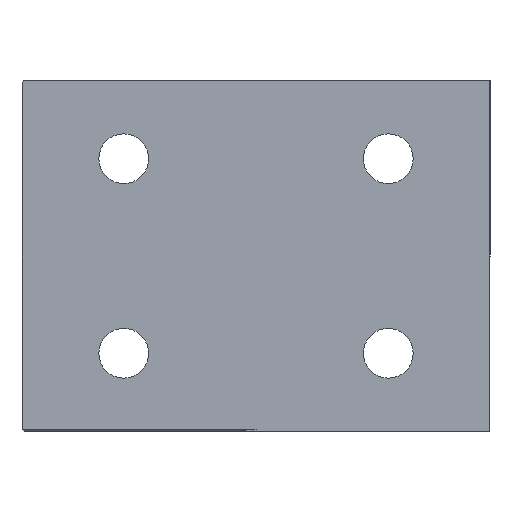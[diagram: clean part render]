
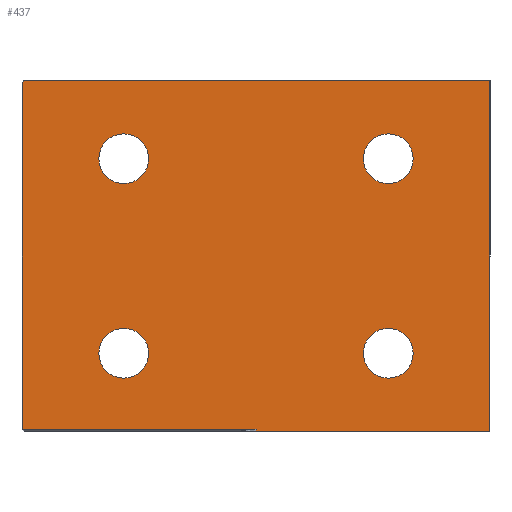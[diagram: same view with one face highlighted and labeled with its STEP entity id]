
A CAD part, front view. The second image highlights one B-rep face of the part: STEP entity #437.
In plain terms, the highlighted planar face has unit normal (0, -1, 0).
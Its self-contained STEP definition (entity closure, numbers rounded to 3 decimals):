
#17 = VERTEX_POINT ( 'NONE', #1168 ) ;
#26 = CARTESIAN_POINT ( 'NONE',  ( -17., -8., -15.7 ) ) ;
#36 = CIRCLE ( 'NONE', #1040, 3.2 ) ;
#51 = CIRCLE ( 'NONE', #1080, 3.2 ) ;
#54 = DIRECTION ( 'NONE',  ( 0., -1., 0. ) ) ;
#55 = ORIENTED_EDGE ( 'NONE', *, *, #1032, .F. ) ;
#67 = DIRECTION ( 'NONE',  ( 0., 0., 1. ) ) ;
#70 = DIRECTION ( 'NONE',  ( 0., 0., -1. ) ) ;
#77 = ORIENTED_EDGE ( 'NONE', *, *, #199, .T. ) ;
#82 = CARTESIAN_POINT ( 'NONE',  ( -17., -8., 12.5 ) ) ;
#84 = EDGE_CURVE ( 'NONE', #1141, #171, #138, .T. ) ;
#86 = CARTESIAN_POINT ( 'NONE',  ( 0., -8., -22.375 ) ) ;
#91 = VERTEX_POINT ( 'NONE', #911 ) ;
#99 = AXIS2_PLACEMENT_3D ( 'NONE', #82, #860, #1248 ) ;
#103 = VERTEX_POINT ( 'NONE', #638 ) ;
#138 = LINE ( 'NONE', #1127, #691 ) ;
#144 = CARTESIAN_POINT ( 'NONE',  ( 30., -8., 0. ) ) ;
#149 = EDGE_CURVE ( 'NONE', #952, #1188, #51, .T. ) ;
#171 = VERTEX_POINT ( 'NONE', #866 ) ;
#174 = CARTESIAN_POINT ( 'NONE',  ( -17., -8., -9.3 ) ) ;
#175 = ORIENTED_EDGE ( 'NONE', *, *, #257, .T. ) ;
#185 = AXIS2_PLACEMENT_3D ( 'NONE', #767, #1045, #764 ) ;
#199 = EDGE_CURVE ( 'NONE', #1141, #604, #241, .T. ) ;
#225 = EDGE_LOOP ( 'NONE', ( #981, #249 ) ) ;
#241 = B_SPLINE_CURVE_WITH_KNOTS ( 'NONE', 3,
 ( #276, #553, #272, #954 ),
 .UNSPECIFIED., .F., .F.,
 ( 4, 4 ),
 ( 0., 0. ),
 .UNSPECIFIED. ) ;
#243 = CIRCLE ( 'NONE', #1081, 3.2 ) ;
#247 = DIRECTION ( 'NONE',  ( 0., 0., 1. ) ) ;
#249 = ORIENTED_EDGE ( 'NONE', *, *, #1108, .F. ) ;
#257 = EDGE_CURVE ( 'NONE', #1146, #417, #455, .T. ) ;
#272 = CARTESIAN_POINT ( 'NONE',  ( -29.916, -8., 22.333 ) ) ;
#275 = CIRCLE ( 'NONE', #99, 3.2 ) ;
#276 = CARTESIAN_POINT ( 'NONE',  ( -29.747, -8., 22.5 ) ) ;
#282 = DIRECTION ( 'NONE',  ( 0., 0., -1. ) ) ;
#302 = VERTEX_POINT ( 'NONE', #378 ) ;
#307 = CIRCLE ( 'NONE', #1186, 3.2 ) ;
#333 = VERTEX_POINT ( 'NONE', #690 ) ;
#352 = DIRECTION ( 'NONE',  ( 0., -1., 0. ) ) ;
#358 = DIRECTION ( 'NONE',  ( 1., 0., 0. ) ) ;
#368 = LINE ( 'NONE', #853, #476 ) ;
#373 = DIRECTION ( 'NONE',  ( 0., 0., -1. ) ) ;
#375 = AXIS2_PLACEMENT_3D ( 'NONE', #547, #352, #373 ) ;
#378 = CARTESIAN_POINT ( 'NONE',  ( -17., -8., 9.3 ) ) ;
#387 = CARTESIAN_POINT ( 'NONE',  ( -30., -8., 22.25 ) ) ;
#405 = FACE_BOUND ( 'NONE', #1006, .T. ) ;
#414 = AXIS2_PLACEMENT_3D ( 'NONE', #457, #951, #70 ) ;
#417 = VERTEX_POINT ( 'NONE', #879 ) ;
#419 = CARTESIAN_POINT ( 'NONE',  ( -17., -8., -12.5 ) ) ;
#423 = CARTESIAN_POINT ( 'NONE',  ( -17., -8., 15.7 ) ) ;
#427 = DIRECTION ( 'NONE',  ( 0., 0., -1. ) ) ;
#430 = DIRECTION ( 'NONE',  ( 0., 0., -1. ) ) ;
#437 = ADVANCED_FACE ( 'NONE', ( #893, #1092, #1187, #405, #600 ), #505, .T. ) ;
#440 = CIRCLE ( 'NONE', #185, 3.2 ) ;
#455 = LINE ( 'NONE', #1053, #1246 ) ;
#457 = CARTESIAN_POINT ( 'NONE',  ( -17., -8., 12.5 ) ) ;
#472 = CARTESIAN_POINT ( 'NONE',  ( 0., -8., -22.5 ) ) ;
#476 = VECTOR ( 'NONE', #358, 1000. ) ;
#477 = EDGE_LOOP ( 'NONE', ( #1068, #567 ) ) ;
#505 = PLANE ( 'NONE',  #525 ) ;
#516 = DIRECTION ( 'NONE',  ( 1., 0., 0. ) ) ;
#525 = AXIS2_PLACEMENT_3D ( 'NONE', #804, #1179, #1016 ) ;
#533 = CARTESIAN_POINT ( 'NONE',  ( -17., -8., -12.5 ) ) ;
#547 = CARTESIAN_POINT ( 'NONE',  ( 17., -8., 12.5 ) ) ;
#553 = CARTESIAN_POINT ( 'NONE',  ( -29.832, -8., 22.417 ) ) ;
#567 = ORIENTED_EDGE ( 'NONE', *, *, #813, .F. ) ;
#571 = VERTEX_POINT ( 'NONE', #423 ) ;
#584 = EDGE_CURVE ( 'NONE', #333, #91, #243, .T. ) ;
#598 = CARTESIAN_POINT ( 'NONE',  ( -30., -8., 22.5 ) ) ;
#600 = FACE_OUTER_BOUND ( 'NONE', #788, .T. ) ;
#604 = VERTEX_POINT ( 'NONE', #387 ) ;
#613 = DIRECTION ( 'NONE',  ( 0., -1., 0. ) ) ;
#619 = LINE ( 'NONE', #144, #1057 ) ;
#620 = VECTOR ( 'NONE', #282, 1000. ) ;
#638 = CARTESIAN_POINT ( 'NONE',  ( 0., -8., -22.25 ) ) ;
#640 = DIRECTION ( 'NONE',  ( 0., -1., 0. ) ) ;
#651 = VERTEX_POINT ( 'NONE', #966 ) ;
#665 = EDGE_LOOP ( 'NONE', ( #55, #1095 ) ) ;
#672 = ORIENTED_EDGE ( 'NONE', *, *, #149, .F. ) ;
#684 = CIRCLE ( 'NONE', #375, 3.2 ) ;
#690 = CARTESIAN_POINT ( 'NONE',  ( 17., -8., 9.3 ) ) ;
#691 = VECTOR ( 'NONE', #516, 1000. ) ;
#700 = CARTESIAN_POINT ( 'NONE',  ( 17., -8., -12.5 ) ) ;
#702 = ORIENTED_EDGE ( 'NONE', *, *, #877, .F. ) ;
#723 = ORIENTED_EDGE ( 'NONE', *, *, #84, .F. ) ;
#764 = DIRECTION ( 'NONE',  ( 0., 0., -1. ) ) ;
#766 = DIRECTION ( 'NONE',  ( 1., 0., 0. ) ) ;
#767 = CARTESIAN_POINT ( 'NONE',  ( 17., -8., -12.5 ) ) ;
#769 = LINE ( 'NONE', #598, #620 ) ;
#788 = EDGE_LOOP ( 'NONE', ( #723, #77, #1131, #1088, #935, #175, #1149 ) ) ;
#804 = CARTESIAN_POINT ( 'NONE',  ( 0., -8., 0. ) ) ;
#813 = EDGE_CURVE ( 'NONE', #834, #17, #307, .T. ) ;
#829 = DIRECTION ( 'NONE',  ( 0., 0., -1. ) ) ;
#834 = VERTEX_POINT ( 'NONE', #1120 ) ;
#846 = CARTESIAN_POINT ( 'NONE',  ( -29.747, -8., 22.5 ) ) ;
#851 = LINE ( 'NONE', #86, #1003 ) ;
#853 = CARTESIAN_POINT ( 'NONE',  ( 0., -8., -22.25 ) ) ;
#860 = DIRECTION ( 'NONE',  ( 0., -1., 0. ) ) ;
#866 = CARTESIAN_POINT ( 'NONE',  ( 30., -8., 22.5 ) ) ;
#877 = EDGE_CURVE ( 'NONE', #1188, #952, #36, .T. ) ;
#879 = CARTESIAN_POINT ( 'NONE',  ( 30., -8., -22.5 ) ) ;
#893 = FACE_BOUND ( 'NONE', #477, .T. ) ;
#908 = EDGE_CURVE ( 'NONE', #417, #171, #619, .T. ) ;
#911 = CARTESIAN_POINT ( 'NONE',  ( 17., -8., 15.7 ) ) ;
#912 = DIRECTION ( 'NONE',  ( 0., -1., 0. ) ) ;
#921 = CARTESIAN_POINT ( 'NONE',  ( 17., -8., 12.5 ) ) ;
#935 = ORIENTED_EDGE ( 'NONE', *, *, #1004, .F. ) ;
#951 = DIRECTION ( 'NONE',  ( 0., -1., 0. ) ) ;
#952 = VERTEX_POINT ( 'NONE', #174 ) ;
#954 = CARTESIAN_POINT ( 'NONE',  ( -30., -8., 22.25 ) ) ;
#956 = EDGE_CURVE ( 'NONE', #17, #834, #440, .T. ) ;
#966 = CARTESIAN_POINT ( 'NONE',  ( -30., -8., -22.25 ) ) ;
#981 = ORIENTED_EDGE ( 'NONE', *, *, #1124, .F. ) ;
#1003 = VECTOR ( 'NONE', #67, 1000. ) ;
#1004 = EDGE_CURVE ( 'NONE', #1146, #103, #851, .T. ) ;
#1006 = EDGE_LOOP ( 'NONE', ( #672, #702 ) ) ;
#1007 = DIRECTION ( 'NONE',  ( 0., 0., -1. ) ) ;
#1016 = DIRECTION ( 'NONE',  ( 0., 0., -1. ) ) ;
#1032 = EDGE_CURVE ( 'NONE', #91, #333, #684, .T. ) ;
#1040 = AXIS2_PLACEMENT_3D ( 'NONE', #419, #640, #829 ) ;
#1045 = DIRECTION ( 'NONE',  ( 0., -1., 0. ) ) ;
#1053 = CARTESIAN_POINT ( 'NONE',  ( 0., -8., -22.5 ) ) ;
#1057 = VECTOR ( 'NONE', #247, 1000. ) ;
#1068 = ORIENTED_EDGE ( 'NONE', *, *, #956, .F. ) ;
#1080 = AXIS2_PLACEMENT_3D ( 'NONE', #533, #613, #1007 ) ;
#1081 = AXIS2_PLACEMENT_3D ( 'NONE', #921, #54, #427 ) ;
#1088 = ORIENTED_EDGE ( 'NONE', *, *, #1093, .T. ) ;
#1092 = FACE_BOUND ( 'NONE', #665, .T. ) ;
#1093 = EDGE_CURVE ( 'NONE', #651, #103, #368, .T. ) ;
#1094 = CIRCLE ( 'NONE', #414, 3.2 ) ;
#1095 = ORIENTED_EDGE ( 'NONE', *, *, #584, .F. ) ;
#1108 = EDGE_CURVE ( 'NONE', #302, #571, #1094, .T. ) ;
#1120 = CARTESIAN_POINT ( 'NONE',  ( 17., -8., -15.7 ) ) ;
#1124 = EDGE_CURVE ( 'NONE', #571, #302, #275, .T. ) ;
#1127 = CARTESIAN_POINT ( 'NONE',  ( 30., -8., 22.5 ) ) ;
#1131 = ORIENTED_EDGE ( 'NONE', *, *, #1206, .T. ) ;
#1141 = VERTEX_POINT ( 'NONE', #846 ) ;
#1146 = VERTEX_POINT ( 'NONE', #472 ) ;
#1149 = ORIENTED_EDGE ( 'NONE', *, *, #908, .T. ) ;
#1168 = CARTESIAN_POINT ( 'NONE',  ( 17., -8., -9.3 ) ) ;
#1179 = DIRECTION ( 'NONE',  ( 0., -1., 0. ) ) ;
#1186 = AXIS2_PLACEMENT_3D ( 'NONE', #700, #912, #430 ) ;
#1187 = FACE_BOUND ( 'NONE', #225, .T. ) ;
#1188 = VERTEX_POINT ( 'NONE', #26 ) ;
#1206 = EDGE_CURVE ( 'NONE', #604, #651, #769, .T. ) ;
#1246 = VECTOR ( 'NONE', #766, 1000. ) ;
#1248 = DIRECTION ( 'NONE',  ( 0., 0., -1. ) ) ;
